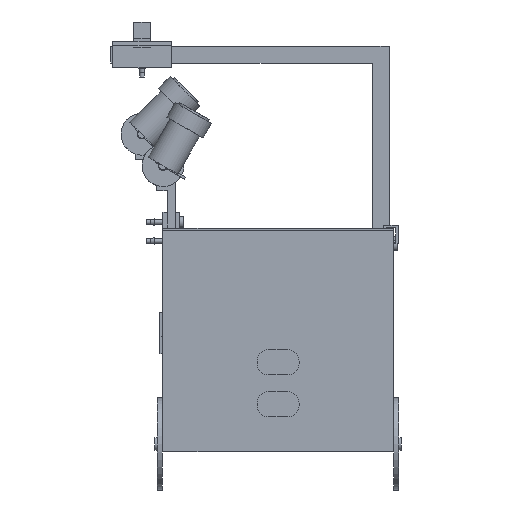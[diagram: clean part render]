
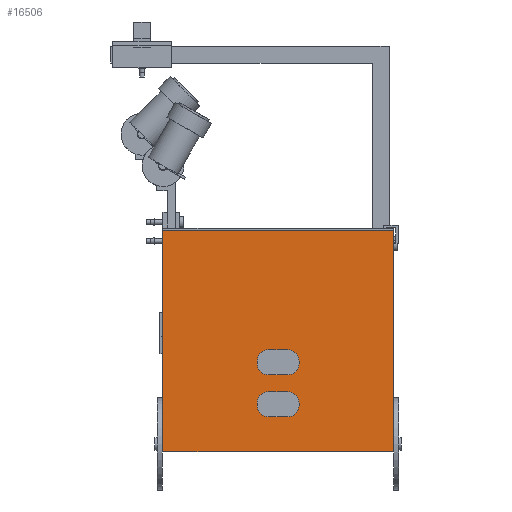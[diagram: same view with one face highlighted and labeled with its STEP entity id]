
A CAD part, left-side view. The second image highlights one B-rep face of the part: STEP entity #16506.
In plain terms, the highlighted planar face has unit normal (-1, 0, 0).
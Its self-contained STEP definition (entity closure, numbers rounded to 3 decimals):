
#416=FACE_BOUND('',#2306,.T.);
#417=FACE_BOUND('',#2307,.T.);
#621=PLANE('',#17784);
#1421=FACE_OUTER_BOUND('',#2305,.T.);
#2305=EDGE_LOOP('',(#12420,#12421,#12422,#12423));
#2306=EDGE_LOOP('',(#12424,#12425,#12426,#12427,#12428,#12429,#12430,#12431));
#2307=EDGE_LOOP('',(#12432,#12433,#12434,#12435,#12436,#12437,#12438,#12439));
#3189=LINE('',#23474,#5324);
#3193=LINE('',#23486,#5328);
#3199=LINE('',#23505,#5334);
#3201=LINE('',#23508,#5336);
#3205=LINE('',#23522,#5340);
#3209=LINE('',#23534,#5344);
#3215=LINE('',#23553,#5350);
#3217=LINE('',#23556,#5352);
#3231=LINE('',#23591,#5366);
#3269=LINE('',#23676,#5404);
#3395=LINE('',#23931,#5530);
#3437=LINE('',#24029,#5572);
#5324=VECTOR('',#19009,10.);
#5328=VECTOR('',#19021,10.);
#5334=VECTOR('',#19041,10.);
#5336=VECTOR('',#19045,10.);
#5340=VECTOR('',#19057,10.);
#5344=VECTOR('',#19069,10.);
#5350=VECTOR('',#19089,10.);
#5352=VECTOR('',#19093,10.);
#5366=VECTOR('',#19123,10.);
#5404=VECTOR('',#19183,10.);
#5530=VECTOR('',#19389,10.);
#5572=VECTOR('',#19495,10.);
#7409=CIRCLE('',#17641,5.5);
#7411=CIRCLE('',#17645,5.5);
#7413=CIRCLE('',#17649,5.5);
#7415=CIRCLE('',#17652,5.5);
#7417=CIRCLE('',#17657,5.5);
#7419=CIRCLE('',#17661,5.5);
#7421=CIRCLE('',#17665,5.5);
#7423=CIRCLE('',#17668,5.5);
#7675=VERTEX_POINT('',#23465);
#7676=VERTEX_POINT('',#23467);
#7678=VERTEX_POINT('',#23473);
#7680=VERTEX_POINT('',#23479);
#7682=VERTEX_POINT('',#23485);
#7685=VERTEX_POINT('',#23492);
#7686=VERTEX_POINT('',#23494);
#7688=VERTEX_POINT('',#23500);
#7691=VERTEX_POINT('',#23513);
#7692=VERTEX_POINT('',#23515);
#7694=VERTEX_POINT('',#23521);
#7696=VERTEX_POINT('',#23527);
#7698=VERTEX_POINT('',#23533);
#7701=VERTEX_POINT('',#23540);
#7702=VERTEX_POINT('',#23542);
#7704=VERTEX_POINT('',#23548);
#7715=VERTEX_POINT('',#23587);
#7717=VERTEX_POINT('',#23590);
#7749=VERTEX_POINT('',#23666);
#7753=VERTEX_POINT('',#23674);
#9301=EDGE_CURVE('',#7676,#7675,#7409,.T.);
#9304=EDGE_CURVE('',#7678,#7676,#3189,.T.);
#9307=EDGE_CURVE('',#7680,#7678,#7411,.T.);
#9310=EDGE_CURVE('',#7682,#7680,#3193,.T.);
#9314=EDGE_CURVE('',#7686,#7685,#7413,.T.);
#9317=EDGE_CURVE('',#7688,#7682,#7415,.T.);
#9320=EDGE_CURVE('',#7685,#7688,#3199,.T.);
#9322=EDGE_CURVE('',#7675,#7686,#3201,.T.);
#9325=EDGE_CURVE('',#7692,#7691,#7417,.T.);
#9328=EDGE_CURVE('',#7694,#7692,#3205,.T.);
#9331=EDGE_CURVE('',#7696,#7694,#7419,.T.);
#9334=EDGE_CURVE('',#7698,#7696,#3209,.T.);
#9338=EDGE_CURVE('',#7702,#7701,#7421,.T.);
#9341=EDGE_CURVE('',#7704,#7698,#7423,.T.);
#9344=EDGE_CURVE('',#7701,#7704,#3215,.T.);
#9346=EDGE_CURVE('',#7691,#7702,#3217,.T.);
#9362=EDGE_CURVE('',#7717,#7715,#3231,.T.);
#9404=EDGE_CURVE('',#7753,#7749,#3269,.T.);
#9533=EDGE_CURVE('',#7717,#7753,#3395,.T.);
#9580=EDGE_CURVE('',#7749,#7715,#3437,.T.);
#12420=ORIENTED_EDGE('',*,*,#9533,.F.);
#12421=ORIENTED_EDGE('',*,*,#9362,.T.);
#12422=ORIENTED_EDGE('',*,*,#9580,.F.);
#12423=ORIENTED_EDGE('',*,*,#9404,.F.);
#12424=ORIENTED_EDGE('',*,*,#9317,.T.);
#12425=ORIENTED_EDGE('',*,*,#9310,.T.);
#12426=ORIENTED_EDGE('',*,*,#9307,.T.);
#12427=ORIENTED_EDGE('',*,*,#9304,.T.);
#12428=ORIENTED_EDGE('',*,*,#9301,.T.);
#12429=ORIENTED_EDGE('',*,*,#9322,.T.);
#12430=ORIENTED_EDGE('',*,*,#9314,.T.);
#12431=ORIENTED_EDGE('',*,*,#9320,.T.);
#12432=ORIENTED_EDGE('',*,*,#9341,.T.);
#12433=ORIENTED_EDGE('',*,*,#9334,.T.);
#12434=ORIENTED_EDGE('',*,*,#9331,.T.);
#12435=ORIENTED_EDGE('',*,*,#9328,.T.);
#12436=ORIENTED_EDGE('',*,*,#9325,.T.);
#12437=ORIENTED_EDGE('',*,*,#9346,.T.);
#12438=ORIENTED_EDGE('',*,*,#9338,.T.);
#12439=ORIENTED_EDGE('',*,*,#9344,.T.);
#16506=ADVANCED_FACE('',(#1421,#416,#417),#621,.F.);
#17641=AXIS2_PLACEMENT_3D('',#23468,#19003,#19004);
#17645=AXIS2_PLACEMENT_3D('',#23480,#19015,#19016);
#17649=AXIS2_PLACEMENT_3D('',#23495,#19028,#19029);
#17652=AXIS2_PLACEMENT_3D('',#23501,#19035,#19036);
#17657=AXIS2_PLACEMENT_3D('',#23516,#19051,#19052);
#17661=AXIS2_PLACEMENT_3D('',#23528,#19063,#19064);
#17665=AXIS2_PLACEMENT_3D('',#23543,#19076,#19077);
#17668=AXIS2_PLACEMENT_3D('',#23549,#19083,#19084);
#17784=AXIS2_PLACEMENT_3D('',#24097,#19569,#19570);
#19003=DIRECTION('center_axis',(1.,0.,0.));
#19004=DIRECTION('ref_axis',(0.,1.,0.));
#19009=DIRECTION('',(0.,0.,1.));
#19015=DIRECTION('center_axis',(1.,0.,0.));
#19016=DIRECTION('ref_axis',(0.,1.,0.));
#19021=DIRECTION('',(0.,1.,0.));
#19028=DIRECTION('center_axis',(1.,0.,0.));
#19029=DIRECTION('ref_axis',(0.,1.,0.));
#19035=DIRECTION('center_axis',(1.,0.,0.));
#19036=DIRECTION('ref_axis',(0.,1.,0.));
#19041=DIRECTION('',(0.,0.,-1.));
#19045=DIRECTION('',(0.,-1.,0.));
#19051=DIRECTION('center_axis',(1.,0.,0.));
#19052=DIRECTION('ref_axis',(0.,1.,0.));
#19057=DIRECTION('',(0.,0.,1.));
#19063=DIRECTION('center_axis',(1.,0.,0.));
#19064=DIRECTION('ref_axis',(0.,1.,0.));
#19069=DIRECTION('',(0.,1.,0.));
#19076=DIRECTION('center_axis',(1.,0.,0.));
#19077=DIRECTION('ref_axis',(0.,1.,0.));
#19083=DIRECTION('center_axis',(1.,0.,0.));
#19084=DIRECTION('ref_axis',(0.,1.,0.));
#19089=DIRECTION('',(0.,0.,-1.));
#19093=DIRECTION('',(0.,-1.,0.));
#19123=DIRECTION('',(0.,0.,-1.));
#19183=DIRECTION('',(0.,0.,-1.));
#19389=DIRECTION('',(0.,-1.,0.));
#19495=DIRECTION('',(0.,1.,0.));
#19569=DIRECTION('center_axis',(1.,0.,0.));
#19570=DIRECTION('ref_axis',(0.,0.,-1.));
#23465=CARTESIAN_POINT('',(0.,60.5,48.8));
#23467=CARTESIAN_POINT('',(0.,66.,43.3));
#23468=CARTESIAN_POINT('Origin',(0.,60.5,43.3));
#23473=CARTESIAN_POINT('',(0.,66.,42.3));
#23474=CARTESIAN_POINT('',(0.,66.,21.85));
#23479=CARTESIAN_POINT('',(0.,60.5,36.8));
#23480=CARTESIAN_POINT('Origin',(0.,60.5,42.3));
#23485=CARTESIAN_POINT('',(0.,51.5,36.8));
#23486=CARTESIAN_POINT('',(0.,56.,36.8));
#23492=CARTESIAN_POINT('',(0.,46.,43.3));
#23494=CARTESIAN_POINT('',(0.,51.5,48.8));
#23495=CARTESIAN_POINT('Origin',(0.,51.5,43.3));
#23500=CARTESIAN_POINT('',(0.,46.,42.3));
#23501=CARTESIAN_POINT('Origin',(0.,51.5,42.3));
#23505=CARTESIAN_POINT('',(0.,46.,21.85));
#23508=CARTESIAN_POINT('',(0.,56.,48.8));
#23513=CARTESIAN_POINT('',(0.,60.5,28.8));
#23515=CARTESIAN_POINT('',(0.,66.,23.3));
#23516=CARTESIAN_POINT('Origin',(0.,60.5,23.3));
#23521=CARTESIAN_POINT('',(0.,66.,22.3));
#23522=CARTESIAN_POINT('',(0.,66.,11.85));
#23527=CARTESIAN_POINT('',(0.,60.5,16.8));
#23528=CARTESIAN_POINT('Origin',(0.,60.5,22.3));
#23533=CARTESIAN_POINT('',(0.,51.5,16.8));
#23534=CARTESIAN_POINT('',(0.,56.,16.8));
#23540=CARTESIAN_POINT('',(0.,46.,23.3));
#23542=CARTESIAN_POINT('',(0.,51.5,28.8));
#23543=CARTESIAN_POINT('Origin',(0.,51.5,23.3));
#23548=CARTESIAN_POINT('',(0.,46.,22.3));
#23549=CARTESIAN_POINT('Origin',(0.,51.5,22.3));
#23553=CARTESIAN_POINT('',(0.,46.,11.85));
#23556=CARTESIAN_POINT('',(0.,56.,28.8));
#23587=CARTESIAN_POINT('',(0.,111.,0.));
#23590=CARTESIAN_POINT('',(0.,111.,105.6));
#23591=CARTESIAN_POINT('',(0.,111.,53.6));
#23666=CARTESIAN_POINT('',(0.,1.,0.));
#23674=CARTESIAN_POINT('',(0.,1.,105.6));
#23676=CARTESIAN_POINT('',(0.,1.,53.6));
#23931=CARTESIAN_POINT('',(0.,110.3,105.6));
#24029=CARTESIAN_POINT('',(0.,56.,0.));
#24097=CARTESIAN_POINT('Origin',(0.,56.,0.9));
